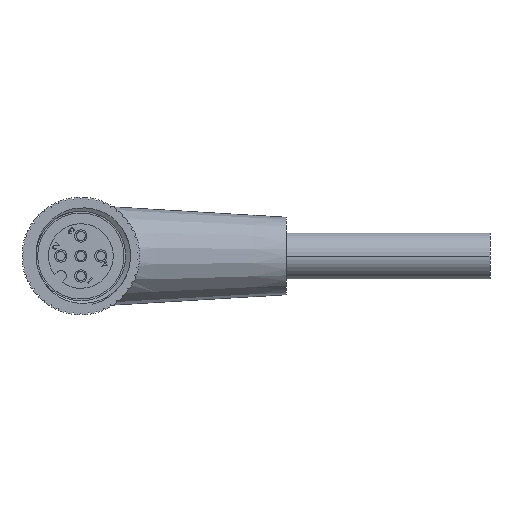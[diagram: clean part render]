
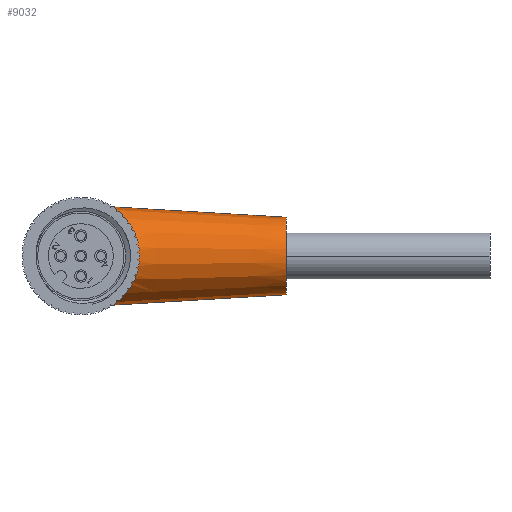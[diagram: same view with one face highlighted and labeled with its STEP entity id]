
A CAD part, left-side view. The second image highlights one B-rep face of the part: STEP entity #9032.
In plain terms, the highlighted conical face has half-angle 3.434 degrees and reference radius 4.826 mm.
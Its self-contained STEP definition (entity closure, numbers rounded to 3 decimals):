
#1609 = EDGE_CURVE ( 'NONE', #4430, #4432, #6649, .T. ) ;
#1617 = EDGE_CURVE ( 'NONE', #4417, #4431, #13920, .T. ) ;
#4417 = VERTEX_POINT ( 'NONE', #8061 ) ;
#4419 = VERTEX_POINT ( 'NONE', #8062 ) ;
#4424 = VERTEX_POINT ( 'NONE', #8065 ) ;
#4428 = VERTEX_POINT ( 'NONE', #8069 ) ;
#4430 = VERTEX_POINT ( 'NONE', #8071 ) ;
#4431 = VERTEX_POINT ( 'NONE', #8072 ) ;
#4432 = VERTEX_POINT ( 'NONE', #8073 ) ;
#6649 = CIRCLE ( 'NONE', #6655, 4.826 ) ;
#6655 = AXIS2_PLACEMENT_3D ( 'NONE', #9470, #9471, #9472 ) ;
#8061 = CARTESIAN_POINT ( 'NONE',  ( -5.994, 19.469, 0. ) ) ;
#8062 = CARTESIAN_POINT ( 'NONE',  ( 0., 24.641, 6.304 ) ) ;
#8065 = CARTESIAN_POINT ( 'NONE',  ( -1.819, 24.641, 6.036 ) ) ;
#8069 = CARTESIAN_POINT ( 'NONE',  ( 0., 24.641, -6.304 ) ) ;
#8071 = CARTESIAN_POINT ( 'NONE',  ( 0., 0., 4.826 ) ) ;
#8072 = CARTESIAN_POINT ( 'NONE',  ( -1.819, 24.641, -6.036 ) ) ;
#8073 = CARTESIAN_POINT ( 'NONE',  ( 0., 0., -4.826 ) ) ;
#9032 = ADVANCED_FACE ( 'NONE', ( #14200 ), #10258, .T. ) ;
#9470 = CARTESIAN_POINT ( 'NONE',  ( 0., 0., 0. ) ) ;
#9471 = DIRECTION ( 'NONE',  ( 0., -1., 0. ) ) ;
#9472 = DIRECTION ( 'NONE',  ( 0., 0., -1. ) ) ;
#9489 = CARTESIAN_POINT ( 'NONE',  ( -5.994, 19.469, -0.203 ) ) ;
#9490 = CARTESIAN_POINT ( 'NONE',  ( -5.984, 19.479, -0.405 ) ) ;
#9494 = CARTESIAN_POINT ( 'NONE',  ( -5.994, 19.469, 0. ) ) ;
#9495 = CARTESIAN_POINT ( 'NONE',  ( -5.946, 19.519, -0.808 ) ) ;
#9496 = CARTESIAN_POINT ( 'NONE',  ( -5.917, 19.55, -1.01 ) ) ;
#9497 = CARTESIAN_POINT ( 'NONE',  ( -5.803, 19.669, -1.601 ) ) ;
#9498 = CARTESIAN_POINT ( 'NONE',  ( -5.692, 19.784, -1.975 ) ) ;
#9499 = CARTESIAN_POINT ( 'NONE',  ( -5.412, 20.079, -2.688 ) ) ;
#9500 = CARTESIAN_POINT ( 'NONE',  ( -5.246, 20.254, -3.017 ) ) ;
#9501 = CARTESIAN_POINT ( 'NONE',  ( -4.969, 20.548, -3.471 ) ) ;
#9502 = CARTESIAN_POINT ( 'NONE',  ( -4.872, 20.651, -3.616 ) ) ;
#9503 = CARTESIAN_POINT ( 'NONE',  ( -4.669, 20.869, -3.895 ) ) ;
#9504 = CARTESIAN_POINT ( 'NONE',  ( -4.563, 20.983, -4.029 ) ) ;
#9505 = CARTESIAN_POINT ( 'NONE',  ( -4.238, 21.335, -4.408 ) ) ;
#9506 = CARTESIAN_POINT ( 'NONE',  ( -4.012, 21.583, -4.633 ) ) ;
#9507 = CARTESIAN_POINT ( 'NONE',  ( -3.546, 22.106, -5.037 ) ) ;
#9508 = CARTESIAN_POINT ( 'NONE',  ( -3.307, 22.38, -5.216 ) ) ;
#9509 = CARTESIAN_POINT ( 'NONE',  ( -2.826, 22.962, -5.53 ) ) ;
#9510 = CARTESIAN_POINT ( 'NONE',  ( -2.587, 23.264, -5.664 ) ) ;
#9511 = CARTESIAN_POINT ( 'NONE',  ( -2.254, 23.751, -5.832 ) ) ;
#9512 = CARTESIAN_POINT ( 'NONE',  ( -2.148, 23.919, -5.882 ) ) ;
#9513 = CARTESIAN_POINT ( 'NONE',  ( -1.961, 24.267, -5.969 ) ) ;
#9514 = CARTESIAN_POINT ( 'NONE',  ( -1.878, 24.448, -6.006 ) ) ;
#9515 = CARTESIAN_POINT ( 'NONE',  ( -1.819, 24.641, -6.036 ) ) ;
#10092 = ORIENTED_EDGE ( 'NONE', *, *, #13104, .F. ) ;
#10093 = ORIENTED_EDGE ( 'NONE', *, *, #1609, .F. ) ;
#10094 = ORIENTED_EDGE ( 'NONE', *, *, #13116, .T. ) ;
#10095 = ORIENTED_EDGE ( 'NONE', *, *, #13102, .F. ) ;
#10096 = ORIENTED_EDGE ( 'NONE', *, *, #13098, .T. ) ;
#10097 = ORIENTED_EDGE ( 'NONE', *, *, #1617, .T. ) ;
#10098 = ORIENTED_EDGE ( 'NONE', *, *, #13114, .F. ) ;
#10258 = CONICAL_SURFACE ( 'NONE', #10259, 4.826, 0.06 ) ;
#10259 = AXIS2_PLACEMENT_3D ( 'NONE', #14199, #14184, #14210 ) ;
#10433 = B_SPLINE_CURVE_WITH_KNOTS ( 'NONE', 3,
 ( #15523, #15522, #15528, #15529, #15530, #15531, #15532, #15533, #15534, #15535, #15536, #15537, #15538, #15539, #15540, #15541, #15542, #15543, #15544, #15545, #15546, #15547, #15548, #15549 ),
 .UNSPECIFIED., .F., .F.,
 ( 4, 2, 2, 2, 2, 2, 2, 2, 2, 2, 2, 4 ),
 ( 0.001, 0.001, 0.002, 0.003, 0.004, 0.006, 0.006, 0.007, 0.008, 0.009, 0.009, 0.011 ),
 .UNSPECIFIED. ) ;
#13098 = EDGE_CURVE ( 'NONE', #4424, #4417, #10433, .T. ) ;
#13102 = EDGE_CURVE ( 'NONE', #4424, #4419, #15057, .T. ) ;
#13104 = EDGE_CURVE ( 'NONE', #4432, #4428, #15557, .T. ) ;
#13114 = EDGE_CURVE ( 'NONE', #4428, #4431, #15081, .T. ) ;
#13116 = EDGE_CURVE ( 'NONE', #4430, #4419, #15618, .T. ) ;
#13438 = EDGE_LOOP ( 'NONE', ( #10092, #10093, #10094, #10095, #10096, #10097, #10098 ) ) ;
#13920 = B_SPLINE_CURVE_WITH_KNOTS ( 'NONE', 3,
 ( #9494, #9489, #9490, #9495, #9496, #9497, #9498, #9499, #9500, #9501, #9502, #9503, #9504, #9505, #9506, #9507, #9508, #9509, #9510, #9511, #9512, #9513, #9514, #9515 ),
 .UNSPECIFIED., .F., .F.,
 ( 4, 2, 2, 2, 2, 2, 2, 2, 2, 2, 2, 4 ),
 ( 0.011, 0.011, 0.012, 0.013, 0.014, 0.015, 0.015, 0.017, 0.018, 0.019, 0.02, 0.02 ),
 .UNSPECIFIED. ) ;
#14184 = DIRECTION ( 'NONE',  ( 0., 1., 0. ) ) ;
#14199 = CARTESIAN_POINT ( 'NONE',  ( 0., 0., 0. ) ) ;
#14200 = FACE_OUTER_BOUND ( 'NONE', #13438, .T. ) ;
#14210 = DIRECTION ( 'NONE',  ( 0., 0., 1. ) ) ;
#15057 = CIRCLE ( 'NONE', #15064, 6.304 ) ;
#15064 = AXIS2_PLACEMENT_3D ( 'NONE', #15559, #15560, #15561 ) ;
#15065 = VECTOR ( 'NONE', #15567, 1000. ) ;
#15081 = CIRCLE ( 'NONE', #15082, 6.304 ) ;
#15082 = AXIS2_PLACEMENT_3D ( 'NONE', #15614, #15615, #15616 ) ;
#15083 = VECTOR ( 'NONE', #15620, 1000. ) ;
#15522 = CARTESIAN_POINT ( 'NONE',  ( -1.878, 24.447, 6.006 ) ) ;
#15523 = CARTESIAN_POINT ( 'NONE',  ( -1.819, 24.641, 6.036 ) ) ;
#15528 = CARTESIAN_POINT ( 'NONE',  ( -1.962, 24.265, 5.969 ) ) ;
#15529 = CARTESIAN_POINT ( 'NONE',  ( -2.153, 23.912, 5.88 ) ) ;
#15530 = CARTESIAN_POINT ( 'NONE',  ( -2.259, 23.744, 5.83 ) ) ;
#15531 = CARTESIAN_POINT ( 'NONE',  ( -2.59, 23.261, 5.662 ) ) ;
#15532 = CARTESIAN_POINT ( 'NONE',  ( -2.827, 22.961, 5.529 ) ) ;
#15533 = CARTESIAN_POINT ( 'NONE',  ( -3.304, 22.383, 5.217 ) ) ;
#15534 = CARTESIAN_POINT ( 'NONE',  ( -3.547, 22.105, 5.036 ) ) ;
#15535 = CARTESIAN_POINT ( 'NONE',  ( -4.014, 21.58, 4.631 ) ) ;
#15536 = CARTESIAN_POINT ( 'NONE',  ( -4.241, 21.332, 4.406 ) ) ;
#15537 = CARTESIAN_POINT ( 'NONE',  ( -4.563, 20.983, 4.029 ) ) ;
#15538 = CARTESIAN_POINT ( 'NONE',  ( -4.668, 20.87, 3.897 ) ) ;
#15539 = CARTESIAN_POINT ( 'NONE',  ( -4.871, 20.652, 3.618 ) ) ;
#15540 = CARTESIAN_POINT ( 'NONE',  ( -4.97, 20.548, 3.471 ) ) ;
#15541 = CARTESIAN_POINT ( 'NONE',  ( -5.248, 20.252, 3.014 ) ) ;
#15542 = CARTESIAN_POINT ( 'NONE',  ( -5.412, 20.078, 2.687 ) ) ;
#15543 = CARTESIAN_POINT ( 'NONE',  ( -5.621, 19.859, 2.156 ) ) ;
#15544 = CARTESIAN_POINT ( 'NONE',  ( -5.685, 19.792, 1.971 ) ) ;
#15545 = CARTESIAN_POINT ( 'NONE',  ( -5.794, 19.678, 1.595 ) ) ;
#15546 = CARTESIAN_POINT ( 'NONE',  ( -5.841, 19.629, 1.404 ) ) ;
#15547 = CARTESIAN_POINT ( 'NONE',  ( -5.954, 19.511, 0.818 ) ) ;
#15548 = CARTESIAN_POINT ( 'NONE',  ( -5.994, 19.469, 0.405 ) ) ;
#15549 = CARTESIAN_POINT ( 'NONE',  ( -5.994, 19.469, 0. ) ) ;
#15557 = LINE ( 'NONE', #15558, #15065 ) ;
#15558 = CARTESIAN_POINT ( 'NONE',  ( 0., 0., -4.826 ) ) ;
#15559 = CARTESIAN_POINT ( 'NONE',  ( 0., 24.641, 0. ) ) ;
#15560 = DIRECTION ( 'NONE',  ( 0., 1., 0. ) ) ;
#15561 = DIRECTION ( 'NONE',  ( 0., 0., 1. ) ) ;
#15567 = DIRECTION ( 'NONE',  ( 0., 0.998, -0.06 ) ) ;
#15614 = CARTESIAN_POINT ( 'NONE',  ( 0., 24.641, 0. ) ) ;
#15615 = DIRECTION ( 'NONE',  ( 0., 1., 0. ) ) ;
#15616 = DIRECTION ( 'NONE',  ( 0., 0., 1. ) ) ;
#15618 = LINE ( 'NONE', #15619, #15083 ) ;
#15619 = CARTESIAN_POINT ( 'NONE',  ( 0., 0., 4.826 ) ) ;
#15620 = DIRECTION ( 'NONE',  ( 0., 0.998, 0.06 ) ) ;
